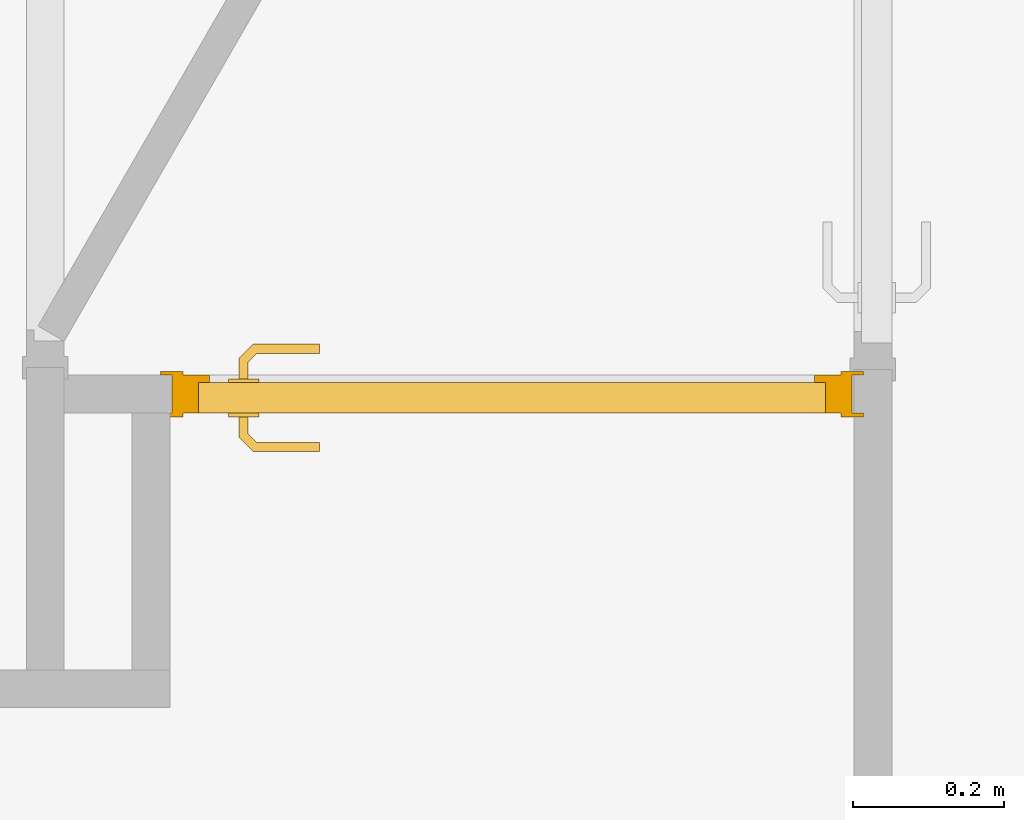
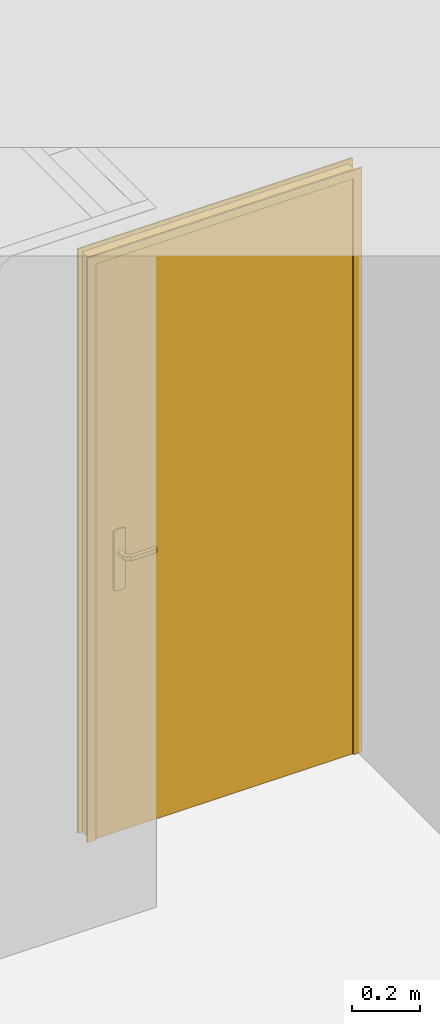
# One storey, part 4 of 14: 1 door.
"""IFC2X3 building model written with IfcOpenShell, lengths in millimetres."""

from ifc_helpers import new_model, entity, si_unit, converted_unit, direction, frame, origin, origin_with_axes, place, context, project, spatial, faceted_brep, element, save


model = new_model("IFC2X3")

# Units and contexts
model_context = context("Model", 3, precision=1e-05, world=origin(), true_north=direction((0.0, 1.0, 0.0)))
ifc_project = project(units=[si_unit("LENGTHUNIT", "METRE", prefix="MILLI"), si_unit("AREAUNIT", "SQUARE_METRE"), si_unit("VOLUMEUNIT", "CUBIC_METRE"), converted_unit("PLANEANGLEUNIT", "DEGREE", entity("IfcPlaneAngleMeasure", 0.01745), si_unit("PLANEANGLEUNIT", "RADIAN"), dimensions=[0, 0, 0, 0, 0, 0, 0]), si_unit("SOLIDANGLEUNIT", "STERADIAN"), si_unit("MASSUNIT", "GRAM"), si_unit("TIMEUNIT", "SECOND"), si_unit("THERMODYNAMICTEMPERATUREUNIT", "DEGREE_CELSIUS"), si_unit("LUMINOUSINTENSITYUNIT", "LUMEN")], contexts=[model_context])

# Site, building, storey
placement = place(None, origin_with_axes())
site_placement = place(placement, frame((11636.08881703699, 2815.7442167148, 4.768371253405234e-06), z_axis=(0.0, 0.0, 1.0), x_axis=(1.0, 0.0, 0.0)))
site = spatial("IfcSite", under=ifc_project, at=site_placement, Name="Surface", CompositionType="ELEMENT")
building_placement = place(placement, origin_with_axes())
building = spatial("IfcBuilding", under=site, at=building_placement, Name="Default Building", CompositionType="ELEMENT")
storey_placement = place(building_placement, origin_with_axes())
storey = spatial("IfcBuildingStorey", under=building, at=storey_placement, Name="Plan étage", CompositionType="ELEMENT", Elevation=0.0)

# Door
door_placement = place(storey_placement, frame((11636.08881703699, 2815.7442167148, 4.768371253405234e-06), z_axis=(0.0, 0.0, 1.0), x_axis=(1.0, 0.0, 0.0)))
element("IfcDoor", 1, at=door_placement, inside=storey, Name="IfcDoor - Int. Simple:PP (0.83m x 2.04m)", context=model_context, shape_type="Brep", body=[
    faceted_brep([(-9083.588821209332, 409.2557839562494, 2740.000042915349), (-9113.588822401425, 414.255782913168, 2740.000042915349), (-9083.588821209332, 414.255782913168, 2740.000042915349), (-9113.588822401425, 409.2557839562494, 2740.000042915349), (-8213.58881644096, 409.2557839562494, 2740.000042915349), (-8183.588815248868, 414.255782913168, 2740.000042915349), (-8183.588815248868, 409.2557839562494, 2740.000042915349), (-8213.58881644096, 414.255782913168, 2740.000042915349), (-9083.588821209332, 409.2557839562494, 4799.99998569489), (-8213.58881644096, 414.255782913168, 4799.99998569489), (-8213.58881644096, 409.2557839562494, 4799.99998569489), (-9083.588821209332, 414.255782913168, 4799.99998569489), (-9113.588822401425, 414.255782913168, 4829.99995708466), (-8183.588815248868, 409.2557839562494, 4829.99995708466), (-8183.588815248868, 414.255782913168, 4829.99995708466), (-9113.588822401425, 409.2557839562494, 4829.99995708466), (-9083.588821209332, 464.2557836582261, 4799.99998569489), (-8213.58881644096, 469.2557826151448, 4799.99998569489), (-8213.58881644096, 464.2557836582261, 4799.99998569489), (-9083.588821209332, 469.2557826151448, 4799.99998569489), (-9113.588822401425, 469.2557826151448, 4829.99995708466), (-8183.588815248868, 464.2557836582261, 4829.99995708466), (-8183.588815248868, 469.2557826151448, 4829.99995708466), (-9113.588822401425, 464.2557836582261, 4829.99995708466), (-8183.588815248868, 464.2557836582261, 2740.000042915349), (-8183.588815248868, 469.2557826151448, 2740.000042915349), (-8213.58881644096, 469.2557826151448, 2740.000042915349), (-8213.58881644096, 464.2557836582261, 2740.000042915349), (-9083.588821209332, 464.2557836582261, 2740.000042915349), (-9083.588821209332, 469.2557826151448, 2740.000042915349), (-9113.588822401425, 469.2557826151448, 2740.000042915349), (-9113.588822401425, 464.2557836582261, 2740.000042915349), (-9063.588810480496, 414.255782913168, 4780.000004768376), (-8233.588827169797, 454.255782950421, 4780.000004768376), (-8233.588827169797, 414.255782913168, 4780.000004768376), (-9063.588810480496, 454.255782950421, 4780.000004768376), (-9048.588824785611, 454.255782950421, 4765.000019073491), (-8248.588812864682, 464.2557836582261, 4765.000019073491), (-8248.588812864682, 454.255782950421, 4765.000019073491), (-9048.588824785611, 464.2557836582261, 4765.000019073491), (-9098.588806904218, 464.2557836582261, 4814.999971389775), (-8198.588830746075, 414.255782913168, 4814.999971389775), (-8198.588830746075, 464.2557836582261, 4814.999971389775), (-9098.588806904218, 414.255782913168, 4814.999971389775), (-8233.588827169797, 454.255782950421, 2740.000042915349), (-8233.588827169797, 414.255782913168, 2740.000042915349), (-8248.588812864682, 464.2557836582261, 2740.000042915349), (-8248.588812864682, 454.255782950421, 2740.000042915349), (-8198.588830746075, 464.2557836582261, 2740.000042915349), (-8198.588830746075, 414.255782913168, 2740.000042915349), (-9063.588810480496, 414.255782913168, 2740.000042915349), (-9098.588806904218, 414.255782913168, 2740.000042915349), (-9063.588810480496, 454.255782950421, 2740.000042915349), (-9048.588824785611, 454.255782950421, 2740.000042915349), (-9048.588824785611, 464.2557836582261, 2740.000042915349), (-9098.588806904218, 464.2557836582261, 2740.000042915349), (-9063.58881048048, 454.2557828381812, 4779.999980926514), (-9063.58881048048, 414.255783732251, 2740.000019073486), (-9063.58881048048, 414.255783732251, 4779.999980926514), (-9063.58881048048, 454.2557828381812, 2740.000019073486), (-8233.58882716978, 414.255783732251, 2740.000019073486), (-8233.58882716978, 454.2557828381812, 2740.000019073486), (-8233.58882716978, 414.255783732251, 4779.999980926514), (-8233.58882716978, 454.2557828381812, 4779.999980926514), (-8989.427724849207, 501.2515642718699, 3732.219558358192), (-8945.646474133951, 499.2262654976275, 3732.121313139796), (-8987.74991184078, 497.2009741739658, 3732.219558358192), (-8951.143614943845, 505.2262702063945, 3732.999999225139), (-8903.543036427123, 497.2009741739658, 3732.219558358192), (-8944.823298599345, 493.2262682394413, 3732.999999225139), (-8903.543036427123, 501.2515642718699, 3732.219558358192), (-8903.543036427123, 493.2262682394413, 3732.999999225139), (-8986.10353655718, 493.2262682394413, 3732.999999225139), (-8991.074100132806, 505.2262702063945, 3732.999999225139), (-8903.543036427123, 505.2262702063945, 3732.999999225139), (-8951.1436130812, 505.2262702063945, 3747.000001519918), (-8903.543036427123, 505.2262702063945, 3747.000001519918), (-8991.074100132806, 505.2262702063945, 3747.000001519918), (-8903.543036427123, 501.2515642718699, 3747.780442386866), (-8945.646474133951, 499.2262654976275, 3747.878685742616), (-8903.543036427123, 497.2009741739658, 3747.780442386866), (-8987.74991184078, 497.2009741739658, 3747.780442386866), (-8944.82328556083, 493.2262682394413, 3747.000001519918), (-8989.427724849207, 501.2515642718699, 3747.780442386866), (-8903.543036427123, 493.2262682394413, 3747.000001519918), (-8986.10353655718, 493.2262682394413, 3747.000001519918), (-8997.58881702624, 481.7409896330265, 3732.999999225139), (-9001.563519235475, 483.3873630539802, 3732.219558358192), (-9005.61411678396, 485.0651741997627, 3732.219558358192), (-9009.588818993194, 486.7115513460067, 3732.999999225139), (-9009.588818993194, 486.7115513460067, 3747.000001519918), (-9005.61411678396, 485.0651741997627, 3747.780442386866), (-9001.563519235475, 483.3873630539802, 3747.780442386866), (-8997.58881702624, 481.7409896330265, 3747.000001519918), (-8997.58881702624, 459.2557837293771, 3732.999999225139), (-9001.563519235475, 459.2557837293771, 3732.219558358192), (-9005.61411678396, 459.2557837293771, 3732.219558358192), (-9009.588818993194, 459.2557837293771, 3732.999999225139), (-9009.588818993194, 459.2557837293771, 3747.000001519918), (-9005.61411678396, 459.2557837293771, 3747.780442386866), (-9001.563519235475, 459.2557837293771, 3747.780442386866), (-8997.58881702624, 459.2557837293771, 3747.000001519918), (-8903.570178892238, 363.2276215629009, 3747.000001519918), (-8951.281118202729, 363.2276215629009, 3732.999999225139), (-8903.570178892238, 363.2276215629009, 3732.999999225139), (-8991.211608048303, 363.2276215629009, 3732.999999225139), (-8951.28112192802, 363.2276215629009, 3747.000001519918), (-8991.211608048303, 363.2276215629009, 3747.000001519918), (-8903.570178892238, 367.2023274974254, 3732.219558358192), (-8945.728799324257, 369.2276188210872, 3732.121313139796), (-8903.570178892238, 371.2529175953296, 3732.219558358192), (-8987.887421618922, 371.2529175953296, 3732.219558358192), (-8944.90561261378, 375.2276235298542, 3732.999999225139), (-8989.565232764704, 367.2023274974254, 3732.219558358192), (-8903.570178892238, 375.2276235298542, 3732.999999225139), (-8986.241046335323, 375.2276235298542, 3732.999999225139), (-8944.90561261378, 375.2276235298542, 3747.000001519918), (-8986.241046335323, 375.2276235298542, 3747.000001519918), (-8903.570178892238, 375.2276235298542, 3747.000001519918), (-8989.565232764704, 367.2023274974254, 3747.780442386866), (-8945.728799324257, 369.2276262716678, 3747.878685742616), (-8987.887421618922, 371.2529175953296, 3747.780442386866), (-8903.570178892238, 371.2529175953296, 3747.780442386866), (-8903.570178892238, 367.2023274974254, 3747.780442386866), (-9009.588818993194, 381.6048325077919, 3747.000001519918), (-9009.588818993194, 381.6048325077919, 3732.999999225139), (-9005.61411678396, 383.2512059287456, 3732.219558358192), (-9001.563519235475, 384.9290207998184, 3732.219558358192), (-8997.58881702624, 386.5753942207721, 3732.999999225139), (-8997.58881702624, 386.5753942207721, 3747.000001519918), (-9001.563519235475, 384.9290207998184, 3747.780442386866), (-9005.61411678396, 383.2512059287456, 3747.780442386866), (-9009.588818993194, 409.2557829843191, 3747.000001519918), (-9009.588818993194, 409.2557829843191, 3732.999999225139), (-9005.61411678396, 409.2557829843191, 3732.219558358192), (-9001.563519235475, 409.2557829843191, 3732.219558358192), (-8997.58881702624, 409.2557829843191, 3732.999999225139), (-8997.58881702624, 409.2557829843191, 3747.000001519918), (-9001.563519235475, 409.2557829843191, 3747.780442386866), (-9005.61411678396, 409.2557829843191, 3747.780442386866), (-8983.588818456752, 454.2557829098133, 3819.999996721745), (-8983.588818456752, 459.2557837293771, 3610.000003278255), (-8983.588818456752, 459.2557837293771, 3819.999996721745), (-8983.588818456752, 454.2557829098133, 3610.000003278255), (-8993.236057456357, 459.2557837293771, 3606.003981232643), (-8993.236057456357, 454.2557829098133, 3606.003981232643), (-9003.588818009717, 459.2557837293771, 3604.641016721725), (-9003.588818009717, 454.2557829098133, 3604.641016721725), (-9013.941582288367, 454.2557829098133, 3606.003981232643), (-9013.941582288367, 459.2557837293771, 3606.003981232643), (-9023.588817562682, 459.2557837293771, 3610.000003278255), (-9023.588817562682, 454.2557829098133, 3610.000003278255), (-9023.588817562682, 459.2557837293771, 3819.999996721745), (-9023.588817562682, 454.2557829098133, 3819.999996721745), (-9013.941582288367, 459.2557837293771, 3823.996018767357), (-9013.941582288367, 454.2557829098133, 3823.996018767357), (-9003.588818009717, 459.2557837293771, 3825.358983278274), (-9003.588818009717, 454.2557829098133, 3825.358983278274), (-8993.236057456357, 454.2557829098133, 3823.996018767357), (-8993.236057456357, 459.2557837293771, 3823.996018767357), (-9023.588817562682, 409.2557829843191, 3610.000003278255), (-9023.588817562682, 414.2557838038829, 3819.999996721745), (-9023.588817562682, 414.2557838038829, 3610.000003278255), (-9023.588817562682, 409.2557829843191, 3819.999996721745), (-9013.941582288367, 414.2557838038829, 3823.996018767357), (-9013.941582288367, 409.2557829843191, 3823.996018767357), (-9003.588818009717, 414.2557838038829, 3825.358983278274), (-9003.588818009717, 409.2557829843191, 3825.358983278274), (-8993.236057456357, 409.2557829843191, 3823.996018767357), (-8993.236057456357, 414.2557838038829, 3823.996018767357), (-8983.588818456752, 414.2557838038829, 3819.999996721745), (-8983.588818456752, 409.2557829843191, 3819.999996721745), (-8983.588818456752, 414.2557838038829, 3610.000003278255), (-8983.588818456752, 409.2557829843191, 3610.000003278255), (-8993.236057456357, 414.2557838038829, 3606.003981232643), (-8993.236057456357, 409.2557829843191, 3606.003981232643), (-9003.588818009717, 414.2557838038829, 3604.641016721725), (-9003.588818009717, 409.2557829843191, 3604.641016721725), (-9013.941582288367, 409.2557829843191, 3606.003981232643), (-9013.941582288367, 414.2557838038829, 3606.003981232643)], [[[0, 1, 2]], [[0, 3, 1]], [[4, 5, 6]], [[4, 7, 5]], [[8, 9, 10]], [[8, 11, 9]], [[12, 13, 14]], [[12, 15, 13]], [[14, 6, 5]], [[14, 13, 6]], [[10, 7, 4]], [[10, 9, 7]], [[0, 11, 8]], [[0, 2, 11]], [[12, 11, 1]], [[12, 9, 11]], [[14, 9, 12]], [[14, 7, 9]], [[7, 14, 5]], [[1, 11, 2]], [[1, 15, 12]], [[1, 3, 15]], [[13, 10, 6]], [[13, 8, 10]], [[15, 8, 13]], [[15, 0, 8]], [[0, 15, 3]], [[6, 10, 4]], [[16, 17, 18]], [[16, 19, 17]], [[20, 21, 22]], [[20, 23, 21]], [[22, 24, 25]], [[22, 21, 24]], [[18, 26, 27]], [[18, 17, 26]], [[27, 25, 24]], [[27, 26, 25]], [[28, 19, 16]], [[28, 29, 19]], [[20, 19, 30]], [[20, 17, 19]], [[22, 17, 20]], [[22, 26, 17]], [[26, 22, 25]], [[30, 19, 29]], [[30, 23, 20]], [[30, 31, 23]], [[21, 18, 24]], [[21, 16, 18]], [[23, 16, 21]], [[23, 28, 16]], [[28, 23, 31]], [[24, 18, 27]], [[28, 30, 29]], [[28, 31, 30]], [[32, 33, 34]], [[32, 35, 33]], [[36, 37, 38]], [[36, 39, 37]], [[40, 41, 42]], [[40, 43, 41]], [[34, 44, 45]], [[34, 33, 44]], [[38, 46, 47]], [[38, 37, 46]], [[46, 44, 47]], [[48, 44, 46]], [[48, 45, 44]], [[45, 48, 49]], [[42, 49, 48]], [[42, 41, 49]], [[41, 34, 49]], [[41, 32, 34]], [[43, 32, 41]], [[43, 50, 32]], [[50, 43, 51]], [[49, 34, 45]], [[50, 35, 32]], [[50, 52, 35]], [[33, 38, 44]], [[33, 36, 38]], [[35, 36, 33]], [[35, 53, 36]], [[53, 35, 52]], [[44, 38, 47]], [[53, 39, 36]], [[53, 54, 39]], [[40, 39, 55]], [[40, 37, 39]], [[42, 37, 40]], [[42, 46, 37]], [[46, 42, 48]], [[55, 39, 54]], [[55, 43, 40]], [[55, 51, 43]], [[53, 55, 54]], [[52, 55, 53]], [[50, 55, 52]], [[55, 50, 51]], [[56, 57, 58]], [[56, 59, 57]], [[59, 60, 57]], [[59, 61, 60]], [[61, 62, 60]], [[61, 63, 62]], [[63, 58, 62]], [[63, 56, 58]], [[58, 60, 62]], [[58, 57, 60]], [[56, 61, 59]], [[56, 63, 61]], [[64, 65, 66]], [[64, 67, 65]], [[68, 69, 65]], [[70, 68, 65]], [[69, 68, 71]], [[72, 66, 69]], [[65, 69, 66]], [[64, 73, 67]], [[74, 70, 67]], [[67, 70, 65]], [[74, 75, 76]], [[67, 75, 74]], [[73, 75, 67]], [[75, 73, 77]], [[78, 79, 80]], [[81, 82, 79]], [[83, 81, 79]], [[75, 83, 79]], [[77, 83, 75]], [[76, 75, 78]], [[82, 84, 80]], [[85, 82, 81]], [[75, 79, 78]], [[82, 80, 79]], [[84, 69, 71]], [[84, 72, 69]], [[82, 72, 84]], [[72, 82, 85]], [[76, 70, 74]], [[78, 70, 76]], [[78, 68, 70]], [[80, 68, 78]], [[80, 71, 68]], [[71, 80, 84]], [[66, 86, 87]], [[66, 72, 86]], [[73, 88, 89]], [[73, 64, 88]], [[89, 77, 73]], [[89, 90, 77]], [[83, 90, 91]], [[83, 77, 90]], [[85, 92, 93]], [[85, 81, 92]], [[93, 72, 85]], [[93, 86, 72]], [[87, 94, 95]], [[87, 86, 94]], [[87, 64, 66]], [[87, 88, 64]], [[95, 88, 87]], [[88, 95, 96]], [[89, 96, 97]], [[89, 88, 96]], [[97, 90, 89]], [[97, 98, 90]], [[91, 98, 99]], [[91, 90, 98]], [[83, 92, 81]], [[91, 92, 83]], [[91, 100, 92]], [[100, 91, 99]], [[93, 100, 101]], [[93, 92, 100]], [[101, 86, 93]], [[101, 94, 86]], [[96, 98, 97]], [[96, 99, 98]], [[95, 99, 96]], [[95, 100, 99]], [[94, 100, 95]], [[100, 94, 101]], [[102, 103, 104]], [[102, 105, 103]], [[106, 105, 102]], [[105, 106, 107]], [[108, 109, 110]], [[111, 112, 109]], [[113, 111, 109]], [[103, 113, 109]], [[105, 113, 103]], [[104, 103, 108]], [[112, 114, 110]], [[115, 112, 111]], [[103, 109, 108]], [[112, 110, 109]], [[116, 115, 117]], [[118, 115, 116]], [[118, 112, 115]], [[112, 118, 114]], [[119, 120, 121]], [[119, 106, 120]], [[122, 116, 120]], [[123, 122, 120]], [[116, 122, 118]], [[117, 121, 116]], [[120, 116, 121]], [[119, 107, 106]], [[102, 123, 106]], [[106, 123, 120]], [[118, 110, 114]], [[122, 110, 118]], [[122, 108, 110]], [[123, 108, 122]], [[123, 104, 108]], [[104, 123, 102]], [[124, 105, 107]], [[124, 125, 105]], [[113, 125, 126]], [[113, 105, 125]], [[115, 127, 128]], [[115, 111, 127]], [[128, 117, 115]], [[128, 129, 117]], [[121, 129, 130]], [[121, 117, 129]], [[107, 131, 124]], [[107, 119, 131]], [[132, 125, 124]], [[132, 133, 125]], [[126, 133, 134]], [[126, 125, 133]], [[113, 127, 111]], [[126, 127, 113]], [[126, 135, 127]], [[135, 126, 134]], [[128, 135, 136]], [[128, 127, 135]], [[136, 129, 128]], [[136, 137, 129]], [[130, 137, 138]], [[130, 129, 137]], [[130, 119, 121]], [[130, 131, 119]], [[138, 131, 130]], [[131, 138, 139]], [[124, 139, 132]], [[124, 131, 139]], [[136, 138, 137]], [[135, 138, 136]], [[135, 139, 138]], [[134, 139, 135]], [[133, 139, 134]], [[139, 133, 132]], [[140, 141, 142]], [[140, 143, 141]], [[144, 143, 145]], [[144, 141, 143]], [[146, 145, 147]], [[146, 144, 145]], [[148, 146, 147]], [[148, 149, 146]], [[150, 148, 151]], [[150, 149, 148]], [[151, 152, 150]], [[151, 153, 152]], [[154, 153, 155]], [[154, 152, 153]], [[156, 155, 157]], [[156, 154, 155]], [[158, 156, 157]], [[158, 159, 156]], [[142, 158, 140]], [[142, 159, 158]], [[146, 141, 144]], [[149, 141, 146]], [[150, 141, 149]], [[150, 142, 141]], [[150, 159, 142]], [[150, 156, 159]], [[150, 154, 156]], [[154, 150, 152]], [[157, 140, 158]], [[155, 140, 157]], [[153, 140, 155]], [[153, 143, 140]], [[153, 145, 143]], [[153, 147, 145]], [[153, 148, 147]], [[148, 153, 151]], [[160, 161, 162]], [[160, 163, 161]], [[164, 163, 165]], [[164, 161, 163]], [[166, 165, 167]], [[166, 164, 165]], [[168, 166, 167]], [[168, 169, 166]], [[170, 168, 171]], [[170, 169, 168]], [[171, 172, 170]], [[171, 173, 172]], [[174, 173, 175]], [[174, 172, 173]], [[176, 175, 177]], [[176, 174, 175]], [[178, 176, 177]], [[178, 179, 176]], [[162, 178, 160]], [[162, 179, 178]], [[176, 172, 174]], [[179, 172, 176]], [[162, 172, 179]], [[162, 170, 172]], [[162, 169, 170]], [[162, 166, 169]], [[162, 164, 166]], [[164, 162, 161]], [[167, 171, 168]], [[165, 171, 167]], [[163, 171, 165]], [[163, 173, 171]], [[163, 175, 173]], [[163, 177, 175]], [[163, 178, 177]], [[178, 163, 160]]]),
])

save(model, "model.ifc")
